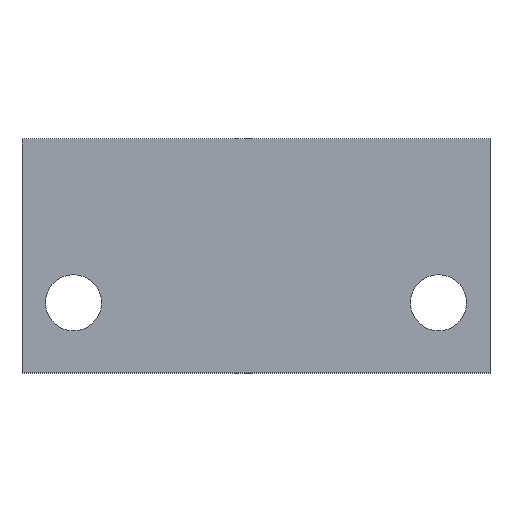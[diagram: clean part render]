
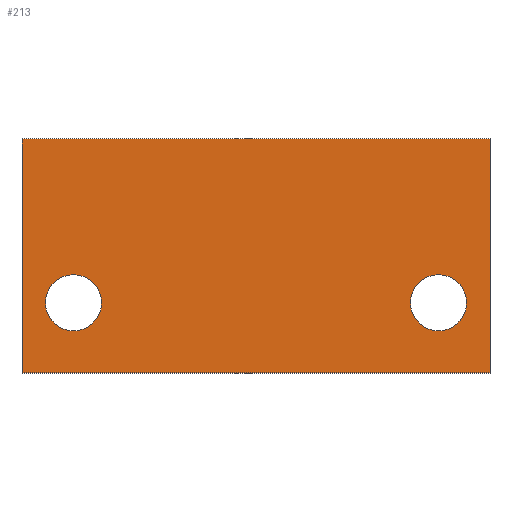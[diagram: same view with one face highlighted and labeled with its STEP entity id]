
A CAD part, top view. The second image highlights one B-rep face of the part: STEP entity #213.
In plain terms, the highlighted planar face has unit normal (0, 0, 1).
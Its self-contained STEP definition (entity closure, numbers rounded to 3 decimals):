
#24 = VERTEX_POINT('',#25);
#25 = CARTESIAN_POINT('',(-10.,10.,9.));
#32 = PLANE('',#33);
#33 = AXIS2_PLACEMENT_3D('',#34,#35,#36);
#34 = CARTESIAN_POINT('',(-10.,10.,8.));
#35 = DIRECTION('',(1.,0.,0.));
#36 = DIRECTION('',(0.,0.,1.));
#44 = PLANE('',#45);
#45 = AXIS2_PLACEMENT_3D('',#46,#47,#48);
#46 = CARTESIAN_POINT('',(-10.,10.,8.));
#47 = DIRECTION('',(0.,1.,0.));
#48 = DIRECTION('',(0.,0.,1.));
#85 = VERTEX_POINT('',#86);
#86 = CARTESIAN_POINT('',(-10.,20.,9.));
#100 = PLANE('',#101);
#101 = AXIS2_PLACEMENT_3D('',#102,#103,#104);
#102 = CARTESIAN_POINT('',(-10.,20.,8.));
#103 = DIRECTION('',(0.,1.,0.));
#104 = DIRECTION('',(0.,0.,1.));
#112 = EDGE_CURVE('',#24,#85,#113,.T.);
#113 = SURFACE_CURVE('',#114,(#118,#125),.PCURVE_S1.);
#114 = LINE('',#115,#116);
#115 = CARTESIAN_POINT('',(-10.,10.,9.));
#116 = VECTOR('',#117,1.);
#117 = DIRECTION('',(0.,1.,0.));
#118 = PCURVE('',#32,#119);
#119 = DEFINITIONAL_REPRESENTATION('',(#120),#124);
#120 = LINE('',#121,#122);
#121 = CARTESIAN_POINT('',(1.,0.));
#122 = VECTOR('',#123,1.);
#123 = DIRECTION('',(0.,-1.));
#124 = ( GEOMETRIC_REPRESENTATION_CONTEXT(2) 
PARAMETRIC_REPRESENTATION_CONTEXT() REPRESENTATION_CONTEXT('2D SPACE',''
  ) );
#125 = PCURVE('',#126,#131);
#126 = PLANE('',#127);
#127 = AXIS2_PLACEMENT_3D('',#128,#129,#130);
#128 = CARTESIAN_POINT('',(-10.,10.,9.));
#129 = DIRECTION('',(0.,0.,1.));
#130 = DIRECTION('',(1.,0.,0.));
#131 = DEFINITIONAL_REPRESENTATION('',(#132),#136);
#132 = LINE('',#133,#134);
#133 = CARTESIAN_POINT('',(0.,0.));
#134 = VECTOR('',#135,1.);
#135 = DIRECTION('',(0.,1.));
#136 = ( GEOMETRIC_REPRESENTATION_CONTEXT(2) 
PARAMETRIC_REPRESENTATION_CONTEXT() REPRESENTATION_CONTEXT('2D SPACE',''
  ) );
#165 = EDGE_CURVE('',#24,#166,#168,.T.);
#166 = VERTEX_POINT('',#167);
#167 = CARTESIAN_POINT('',(10.,10.,9.));
#168 = SURFACE_CURVE('',#169,(#173,#180),.PCURVE_S1.);
#169 = LINE('',#170,#171);
#170 = CARTESIAN_POINT('',(-10.,10.,9.));
#171 = VECTOR('',#172,1.);
#172 = DIRECTION('',(1.,0.,0.));
#173 = PCURVE('',#44,#174);
#174 = DEFINITIONAL_REPRESENTATION('',(#175),#179);
#175 = LINE('',#176,#177);
#176 = CARTESIAN_POINT('',(1.,0.));
#177 = VECTOR('',#178,1.);
#178 = DIRECTION('',(0.,1.));
#179 = ( GEOMETRIC_REPRESENTATION_CONTEXT(2) 
PARAMETRIC_REPRESENTATION_CONTEXT() REPRESENTATION_CONTEXT('2D SPACE',''
  ) );
#180 = PCURVE('',#126,#181);
#181 = DEFINITIONAL_REPRESENTATION('',(#182),#186);
#182 = LINE('',#183,#184);
#183 = CARTESIAN_POINT('',(0.,0.));
#184 = VECTOR('',#185,1.);
#185 = DIRECTION('',(1.,0.));
#186 = ( GEOMETRIC_REPRESENTATION_CONTEXT(2) 
PARAMETRIC_REPRESENTATION_CONTEXT() REPRESENTATION_CONTEXT('2D SPACE',''
  ) );
#202 = PLANE('',#203);
#203 = AXIS2_PLACEMENT_3D('',#204,#205,#206);
#204 = CARTESIAN_POINT('',(10.,10.,8.));
#205 = DIRECTION('',(1.,0.,0.));
#206 = DIRECTION('',(0.,0.,1.));
#213 = ADVANCED_FACE('',(#214,#262,#293),#126,.T.);
#214 = FACE_BOUND('',#215,.T.);
#215 = EDGE_LOOP('',(#216,#217,#218,#241));
#216 = ORIENTED_EDGE('',*,*,#112,.F.);
#217 = ORIENTED_EDGE('',*,*,#165,.T.);
#218 = ORIENTED_EDGE('',*,*,#219,.T.);
#219 = EDGE_CURVE('',#166,#220,#222,.T.);
#220 = VERTEX_POINT('',#221);
#221 = CARTESIAN_POINT('',(10.,20.,9.));
#222 = SURFACE_CURVE('',#223,(#227,#234),.PCURVE_S1.);
#223 = LINE('',#224,#225);
#224 = CARTESIAN_POINT('',(10.,10.,9.));
#225 = VECTOR('',#226,1.);
#226 = DIRECTION('',(0.,1.,0.));
#227 = PCURVE('',#126,#228);
#228 = DEFINITIONAL_REPRESENTATION('',(#229),#233);
#229 = LINE('',#230,#231);
#230 = CARTESIAN_POINT('',(20.,0.));
#231 = VECTOR('',#232,1.);
#232 = DIRECTION('',(0.,1.));
#233 = ( GEOMETRIC_REPRESENTATION_CONTEXT(2) 
PARAMETRIC_REPRESENTATION_CONTEXT() REPRESENTATION_CONTEXT('2D SPACE',''
  ) );
#234 = PCURVE('',#202,#235);
#235 = DEFINITIONAL_REPRESENTATION('',(#236),#240);
#236 = LINE('',#237,#238);
#237 = CARTESIAN_POINT('',(1.,0.));
#238 = VECTOR('',#239,1.);
#239 = DIRECTION('',(0.,-1.));
#240 = ( GEOMETRIC_REPRESENTATION_CONTEXT(2) 
PARAMETRIC_REPRESENTATION_CONTEXT() REPRESENTATION_CONTEXT('2D SPACE',''
  ) );
#241 = ORIENTED_EDGE('',*,*,#242,.F.);
#242 = EDGE_CURVE('',#85,#220,#243,.T.);
#243 = SURFACE_CURVE('',#244,(#248,#255),.PCURVE_S1.);
#244 = LINE('',#245,#246);
#245 = CARTESIAN_POINT('',(-10.,20.,9.));
#246 = VECTOR('',#247,1.);
#247 = DIRECTION('',(1.,0.,0.));
#248 = PCURVE('',#126,#249);
#249 = DEFINITIONAL_REPRESENTATION('',(#250),#254);
#250 = LINE('',#251,#252);
#251 = CARTESIAN_POINT('',(0.,10.));
#252 = VECTOR('',#253,1.);
#253 = DIRECTION('',(1.,0.));
#254 = ( GEOMETRIC_REPRESENTATION_CONTEXT(2) 
PARAMETRIC_REPRESENTATION_CONTEXT() REPRESENTATION_CONTEXT('2D SPACE',''
  ) );
#255 = PCURVE('',#100,#256);
#256 = DEFINITIONAL_REPRESENTATION('',(#257),#261);
#257 = LINE('',#258,#259);
#258 = CARTESIAN_POINT('',(1.,0.));
#259 = VECTOR('',#260,1.);
#260 = DIRECTION('',(0.,1.));
#261 = ( GEOMETRIC_REPRESENTATION_CONTEXT(2) 
PARAMETRIC_REPRESENTATION_CONTEXT() REPRESENTATION_CONTEXT('2D SPACE',''
  ) );
#262 = FACE_BOUND('',#263,.T.);
#263 = EDGE_LOOP('',(#264));
#264 = ORIENTED_EDGE('',*,*,#265,.F.);
#265 = EDGE_CURVE('',#266,#266,#268,.T.);
#266 = VERTEX_POINT('',#267);
#267 = CARTESIAN_POINT('',(-6.6,13.,9.));
#268 = SURFACE_CURVE('',#269,(#274,#281),.PCURVE_S1.);
#269 = CIRCLE('',#270,1.2);
#270 = AXIS2_PLACEMENT_3D('',#271,#272,#273);
#271 = CARTESIAN_POINT('',(-7.8,13.,9.));
#272 = DIRECTION('',(0.,0.,1.));
#273 = DIRECTION('',(1.,0.,-0.));
#274 = PCURVE('',#126,#275);
#275 = DEFINITIONAL_REPRESENTATION('',(#276),#280);
#276 = CIRCLE('',#277,1.2);
#277 = AXIS2_PLACEMENT_2D('',#278,#279);
#278 = CARTESIAN_POINT('',(2.2,3.));
#279 = DIRECTION('',(1.,0.));
#280 = ( GEOMETRIC_REPRESENTATION_CONTEXT(2) 
PARAMETRIC_REPRESENTATION_CONTEXT() REPRESENTATION_CONTEXT('2D SPACE',''
  ) );
#281 = PCURVE('',#282,#287);
#282 = CYLINDRICAL_SURFACE('',#283,1.2);
#283 = AXIS2_PLACEMENT_3D('',#284,#285,#286);
#284 = CARTESIAN_POINT('',(-7.8,13.,7.5));
#285 = DIRECTION('',(0.,0.,1.));
#286 = DIRECTION('',(1.,0.,-0.));
#287 = DEFINITIONAL_REPRESENTATION('',(#288),#292);
#288 = LINE('',#289,#290);
#289 = CARTESIAN_POINT('',(0.,1.5));
#290 = VECTOR('',#291,1.);
#291 = DIRECTION('',(1.,0.));
#292 = ( GEOMETRIC_REPRESENTATION_CONTEXT(2) 
PARAMETRIC_REPRESENTATION_CONTEXT() REPRESENTATION_CONTEXT('2D SPACE',''
  ) );
#293 = FACE_BOUND('',#294,.T.);
#294 = EDGE_LOOP('',(#295));
#295 = ORIENTED_EDGE('',*,*,#296,.F.);
#296 = EDGE_CURVE('',#297,#297,#299,.T.);
#297 = VERTEX_POINT('',#298);
#298 = CARTESIAN_POINT('',(9.,13.,9.));
#299 = SURFACE_CURVE('',#300,(#305,#312),.PCURVE_S1.);
#300 = CIRCLE('',#301,1.2);
#301 = AXIS2_PLACEMENT_3D('',#302,#303,#304);
#302 = CARTESIAN_POINT('',(7.8,13.,9.));
#303 = DIRECTION('',(0.,0.,1.));
#304 = DIRECTION('',(1.,0.,-0.));
#305 = PCURVE('',#126,#306);
#306 = DEFINITIONAL_REPRESENTATION('',(#307),#311);
#307 = CIRCLE('',#308,1.2);
#308 = AXIS2_PLACEMENT_2D('',#309,#310);
#309 = CARTESIAN_POINT('',(17.8,3.));
#310 = DIRECTION('',(1.,0.));
#311 = ( GEOMETRIC_REPRESENTATION_CONTEXT(2) 
PARAMETRIC_REPRESENTATION_CONTEXT() REPRESENTATION_CONTEXT('2D SPACE',''
  ) );
#312 = PCURVE('',#313,#318);
#313 = CYLINDRICAL_SURFACE('',#314,1.2);
#314 = AXIS2_PLACEMENT_3D('',#315,#316,#317);
#315 = CARTESIAN_POINT('',(7.8,13.,7.5));
#316 = DIRECTION('',(0.,0.,1.));
#317 = DIRECTION('',(1.,0.,-0.));
#318 = DEFINITIONAL_REPRESENTATION('',(#319),#323);
#319 = LINE('',#320,#321);
#320 = CARTESIAN_POINT('',(0.,1.5));
#321 = VECTOR('',#322,1.);
#322 = DIRECTION('',(1.,0.));
#323 = ( GEOMETRIC_REPRESENTATION_CONTEXT(2) 
PARAMETRIC_REPRESENTATION_CONTEXT() REPRESENTATION_CONTEXT('2D SPACE',''
  ) );
